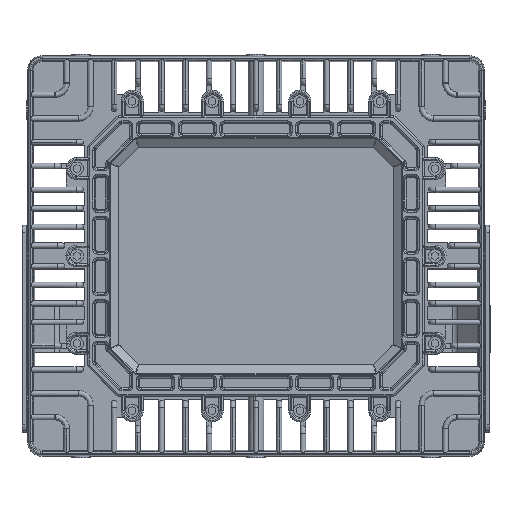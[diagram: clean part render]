
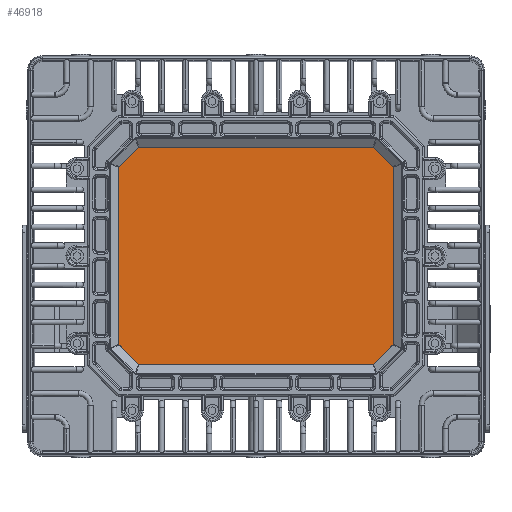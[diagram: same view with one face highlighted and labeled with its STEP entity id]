
A CAD part, top view. The second image highlights one B-rep face of the part: STEP entity #46918.
In plain terms, the highlighted planar face has unit normal (0, 0, 1) as drawn and (0, 0, -1) by its records, which use the part's own axes.
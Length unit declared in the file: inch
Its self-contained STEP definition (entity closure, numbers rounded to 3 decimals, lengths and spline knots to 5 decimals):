
#180 = EDGE_CURVE ( 'NONE', #25935, #44726, #59197, .T. ) ;
#1616 = DIRECTION ( 'NONE',  ( 0., 1., 0. ) ) ;
#2830 = CARTESIAN_POINT ( 'NONE',  ( 4.01924, -3.73875, -0.55 ) ) ;
#3196 = CARTESIAN_POINT ( 'NONE',  ( -4.01924, -3.73875, -0.55 ) ) ;
#4544 = DIRECTION ( 'NONE',  ( 1., 0., 0. ) ) ;
#4581 = LINE ( 'NONE', #18194, #69731 ) ;
#5700 = VERTEX_POINT ( 'NONE', #2830 ) ;
#6239 = VERTEX_POINT ( 'NONE', #28882 ) ;
#6734 = EDGE_LOOP ( 'NONE', ( #46738, #48786, #63672, #17903, #26320, #25538, #23172, #56493 ) ) ;
#12254 = DIRECTION ( 'NONE',  ( -0.707, 0.707, 0. ) ) ;
#12401 = LINE ( 'NONE', #64565, #44044 ) ;
#12822 = FACE_OUTER_BOUND ( 'NONE', #6734, .T. ) ;
#14909 = LINE ( 'NONE', #50098, #65262 ) ;
#15566 = VERTEX_POINT ( 'NONE', #41522 ) ;
#17903 = ORIENTED_EDGE ( 'NONE', *, *, #70582, .T. ) ;
#18104 = CARTESIAN_POINT ( 'NONE',  ( -4.705, 3.05299, -0.55 ) ) ;
#18194 = CARTESIAN_POINT ( 'NONE',  ( 4.705, 3.05299, -0.55 ) ) ;
#18501 = PLANE ( 'NONE',  #50712 ) ;
#22481 = CARTESIAN_POINT ( 'NONE',  ( 4.705, -3.05299, -0.55 ) ) ;
#23172 = ORIENTED_EDGE ( 'NONE', *, *, #46336, .T. ) ;
#24521 = DIRECTION ( 'NONE',  ( 0., -1., 0. ) ) ;
#24823 = DIRECTION ( 'NONE',  ( -1., 0., 0. ) ) ;
#25538 = ORIENTED_EDGE ( 'NONE', *, *, #57680, .T. ) ;
#25688 = LINE ( 'NONE', #30921, #59315 ) ;
#25935 = VERTEX_POINT ( 'NONE', #77042 ) ;
#26320 = ORIENTED_EDGE ( 'NONE', *, *, #47653, .T. ) ;
#26584 = LINE ( 'NONE', #66930, #58220 ) ;
#28596 = DIRECTION ( 'NONE',  ( -0.707, -0.707, 0. ) ) ;
#28882 = CARTESIAN_POINT ( 'NONE',  ( 4.705, 3.05299, -0.55 ) ) ;
#30921 = CARTESIAN_POINT ( 'NONE',  ( 4.01924, 3.73875, -0.55 ) ) ;
#31209 = DIRECTION ( 'NONE',  ( 0.707, -0.707, 0. ) ) ;
#31421 = VECTOR ( 'NONE', #62304, 39.37008 ) ;
#32723 = EDGE_CURVE ( 'NONE', #60982, #25935, #81785, .T. ) ;
#34939 = CARTESIAN_POINT ( 'NONE',  ( 4.705, -3.05299, -0.55 ) ) ;
#41344 = LINE ( 'NONE', #34939, #72899 ) ;
#41522 = CARTESIAN_POINT ( 'NONE',  ( -4.705, -3.05299, -0.55 ) ) ;
#42400 = VECTOR ( 'NONE', #4544, 39.37008 ) ;
#44044 = VECTOR ( 'NONE', #1616, 39.37008 ) ;
#44480 = CARTESIAN_POINT ( 'NONE',  ( 4.01924, 3.73875, -0.55 ) ) ;
#44726 = VERTEX_POINT ( 'NONE', #44480 ) ;
#46336 = EDGE_CURVE ( 'NONE', #76208, #15566, #14909, .T. ) ;
#46738 = ORIENTED_EDGE ( 'NONE', *, *, #32723, .T. ) ;
#46918 = ADVANCED_FACE ( 'NONE', ( #12822 ), #18501, .T. ) ;
#47653 = EDGE_CURVE ( 'NONE', #59316, #5700, #41344, .T. ) ;
#48786 = ORIENTED_EDGE ( 'NONE', *, *, #180, .T. ) ;
#49985 = CARTESIAN_POINT ( 'NONE',  ( 0., 7.75799, -0.55 ) ) ;
#50098 = CARTESIAN_POINT ( 'NONE',  ( -4.01924, -3.73875, -0.55 ) ) ;
#50712 = AXIS2_PLACEMENT_3D ( 'NONE', #49985, #62674, #24823 ) ;
#54508 = DIRECTION ( 'NONE',  ( -1., 0., 0. ) ) ;
#56493 = ORIENTED_EDGE ( 'NONE', *, *, #80811, .T. ) ;
#56922 = EDGE_CURVE ( 'NONE', #44726, #6239, #25688, .T. ) ;
#57680 = EDGE_CURVE ( 'NONE', #5700, #76208, #26584, .T. ) ;
#58220 = VECTOR ( 'NONE', #54508, 39.37008 ) ;
#59197 = LINE ( 'NONE', #80102, #42400 ) ;
#59315 = VECTOR ( 'NONE', #31209, 39.37008 ) ;
#59316 = VERTEX_POINT ( 'NONE', #22481 ) ;
#60982 = VERTEX_POINT ( 'NONE', #73441 ) ;
#62304 = DIRECTION ( 'NONE',  ( 0.707, 0.707, 0. ) ) ;
#62674 = DIRECTION ( 'NONE',  ( 0., 0., -1. ) ) ;
#63672 = ORIENTED_EDGE ( 'NONE', *, *, #56922, .T. ) ;
#64565 = CARTESIAN_POINT ( 'NONE',  ( -4.705, -3.05299, -0.55 ) ) ;
#65262 = VECTOR ( 'NONE', #12254, 39.37008 ) ;
#66930 = CARTESIAN_POINT ( 'NONE',  ( 4.01924, -3.73875, -0.55 ) ) ;
#69731 = VECTOR ( 'NONE', #24521, 39.37008 ) ;
#70582 = EDGE_CURVE ( 'NONE', #6239, #59316, #4581, .T. ) ;
#72899 = VECTOR ( 'NONE', #28596, 39.37008 ) ;
#73441 = CARTESIAN_POINT ( 'NONE',  ( -4.705, 3.05299, -0.55 ) ) ;
#76208 = VERTEX_POINT ( 'NONE', #3196 ) ;
#77042 = CARTESIAN_POINT ( 'NONE',  ( -4.01924, 3.73875, -0.55 ) ) ;
#80102 = CARTESIAN_POINT ( 'NONE',  ( -4.01924, 3.73875, -0.55 ) ) ;
#80811 = EDGE_CURVE ( 'NONE', #15566, #60982, #12401, .T. ) ;
#81785 = LINE ( 'NONE', #18104, #31421 ) ;
